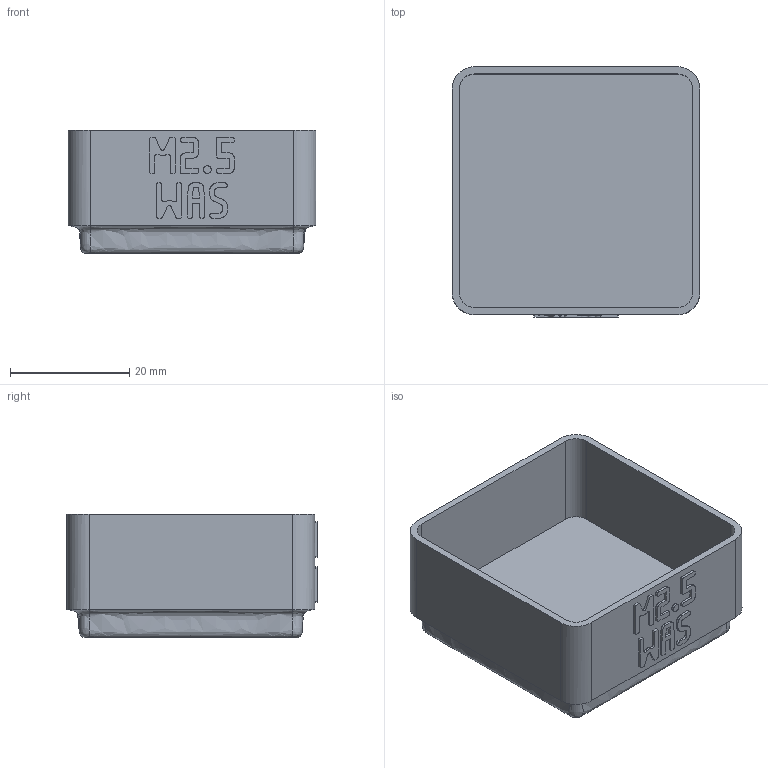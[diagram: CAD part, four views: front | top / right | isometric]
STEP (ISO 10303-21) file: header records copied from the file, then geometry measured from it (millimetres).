
FILE_DESCRIPTION(('Open CASCADE Model'),'2;1');
FILE_NAME('Open CASCADE Shape Model','2026-11-03T15:27:47',('Author'),( 'Open CASCADE'),'Open CASCADE STEP processor 8.0','build123d', 'Unknown');
FILE_SCHEMA(('AUTOMOTIVE_DESIGN { 1 0 10303 214 1 1 1 1 }'));
Products named in the file (1): COMPOUND
Bounding box: 41.5 x 41.9 x 20.75 mm (x, y, z)
Volume: 9654.8 mm3; surface area: 9000.1 mm2
Topology: 1 solids, 1 shells, 783 faces, 2308 edges, 1536 vertices
Faces by surface type: plane 767, bspline 8, cylinder 8
Entity records: 54476 total; most frequent: CARTESIAN_POINT 11328, DIRECTION 6936, LINE 5356, VECTOR 5356, ORIENTED_EDGE 4616, PCURVE 4616, DEFINITIONAL_REPRESENTATION 4616, EDGE_CURVE 2308
